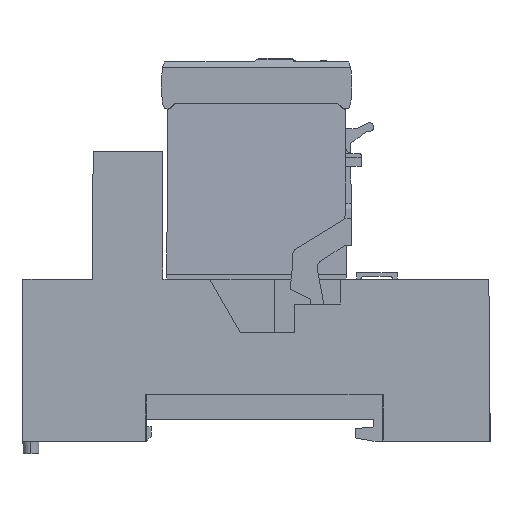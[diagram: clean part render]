
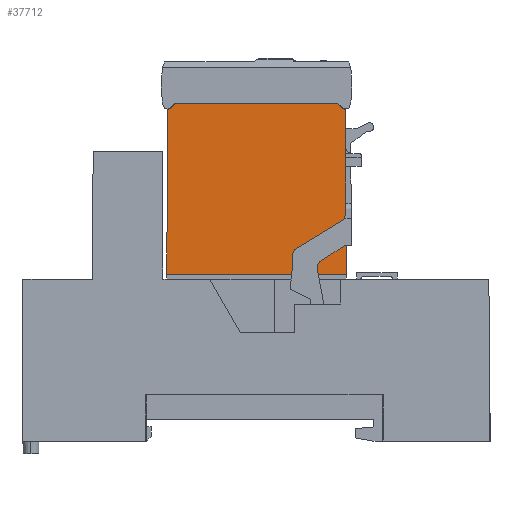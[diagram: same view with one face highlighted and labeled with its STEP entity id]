
A CAD part, left-side view. The second image highlights one B-rep face of the part: STEP entity #37712.
In plain terms, the highlighted planar face has unit normal (-1, 0, 0.006).
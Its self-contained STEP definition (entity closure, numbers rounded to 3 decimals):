
#134 = LINE ( 'NONE', #23613, #29175 ) ;
#381 = VERTEX_POINT ( 'NONE', #24866 ) ;
#690 = VECTOR ( 'NONE', #35034, 1000. ) ;
#1058 = VERTEX_POINT ( 'NONE', #36522 ) ;
#1445 = CARTESIAN_POINT ( 'NONE',  ( 2.513, 37.43, 55.2 ) ) ;
#2806 = LINE ( 'NONE', #3197, #690 ) ;
#3197 = CARTESIAN_POINT ( 'NONE',  ( 2.451, 23.131, 44.369 ) ) ;
#3736 = ORIENTED_EDGE ( 'NONE', *, *, #38393, .T. ) ;
#5075 = ORIENTED_EDGE ( 'NONE', *, *, #7281, .F. ) ;
#5267 = CARTESIAN_POINT ( 'NONE',  ( 2.519, 37.43, 56.2 ) ) ;
#5888 = DIRECTION ( 'NONE',  ( 0., -1., 0. ) ) ;
#6144 = CARTESIAN_POINT ( 'NONE',  ( 2.513, 23.4, 55.2 ) ) ;
#6689 = VERTEX_POINT ( 'NONE', #29343 ) ;
#6866 = AXIS2_PLACEMENT_3D ( 'NONE', #18941, #7250, #18748 ) ;
#7057 = DIRECTION ( 'NONE',  ( 0., 1., 0. ) ) ;
#7250 = DIRECTION ( 'NONE',  ( 1., 0., -0.006 ) ) ;
#7281 = EDGE_CURVE ( 'NONE', #7834, #6689, #22595, .T. ) ;
#7341 = EDGE_CURVE ( 'NONE', #27032, #36767, #27658, .T. ) ;
#7466 = CARTESIAN_POINT ( 'NONE',  ( 2.513, 51.667, 55.2 ) ) ;
#7638 = DIRECTION ( 'NONE',  ( 0., 1., -0.005 ) ) ;
#7752 = CARTESIAN_POINT ( 'NONE',  ( 2.36, 51.82, 28.8 ) ) ;
#7834 = VERTEX_POINT ( 'NONE', #30298 ) ;
#7954 = CARTESIAN_POINT ( 'NONE',  ( 2.36, 23.041, 28.8 ) ) ;
#8137 = EDGE_CURVE ( 'NONE', #14712, #34345, #134, .T. ) ;
#8540 = DIRECTION ( 'NONE',  ( 0., -1., 0. ) ) ;
#9083 = ORIENTED_EDGE ( 'NONE', *, *, #33252, .F. ) ;
#9360 = ORIENTED_EDGE ( 'NONE', *, *, #8137, .T. ) ;
#9757 = ORIENTED_EDGE ( 'NONE', *, *, #7341, .T. ) ;
#9789 = CARTESIAN_POINT ( 'NONE',  ( 2.451, 51.73, 44.369 ) ) ;
#10970 = CARTESIAN_POINT ( 'NONE',  ( 2.513, 51.461, 55.2 ) ) ;
#11356 = CARTESIAN_POINT ( 'NONE',  ( 2.451, 23.289, 44.355 ) ) ;
#11713 = CARTESIAN_POINT ( 'NONE',  ( 2.513, 23., 55.2 ) ) ;
#11938 = DIRECTION ( 'NONE',  ( 0., -1., 0. ) ) ;
#12000 = EDGE_CURVE ( 'NONE', #36678, #22832, #19915, .T. ) ;
#12563 = EDGE_CURVE ( 'NONE', #7834, #22457, #21743, .T. ) ;
#12692 = LINE ( 'NONE', #9789, #21456 ) ;
#12976 = VERTEX_POINT ( 'NONE', #16115 ) ;
#13102 = VECTOR ( 'NONE', #14718, 1000. ) ;
#13958 = EDGE_CURVE ( 'NONE', #36767, #14712, #12692, .T. ) ;
#14368 = EDGE_CURVE ( 'NONE', #6689, #1058, #31809, .T. ) ;
#14441 = CARTESIAN_POINT ( 'NONE',  ( 2.513, 23.194, 55.2 ) ) ;
#14712 = VERTEX_POINT ( 'NONE', #7752 ) ;
#14718 = DIRECTION ( 'NONE',  ( -0.004, 0.707, -0.707 ) ) ;
#16115 = CARTESIAN_POINT ( 'NONE',  ( 2.519, 50.461, 56.2 ) ) ;
#16220 = EDGE_LOOP ( 'NONE', ( #5075, #17350, #9083, #29988, #16566, #3736, #9757, #21785, #9360, #25400, #26791, #35413 ) ) ;
#16566 = ORIENTED_EDGE ( 'NONE', *, *, #26041, .F. ) ;
#16592 = DIRECTION ( 'NONE',  ( 0.004, 0.707, 0.707 ) ) ;
#17350 = ORIENTED_EDGE ( 'NONE', *, *, #12563, .T. ) ;
#17651 = LINE ( 'NONE', #29520, #26133 ) ;
#18748 = DIRECTION ( 'NONE',  ( -0.006, 0., -1. ) ) ;
#18941 = CARTESIAN_POINT ( 'NONE',  ( 2.45, 37.43, 44.286 ) ) ;
#19915 = LINE ( 'NONE', #23190, #22499 ) ;
#20433 = CARTESIAN_POINT ( 'NONE',  ( 2.519, 24.4, 56.2 ) ) ;
#21167 = DIRECTION ( 'NONE',  ( 0., -1., 0.005 ) ) ;
#21456 = VECTOR ( 'NONE', #21666, 1000. ) ;
#21666 = DIRECTION ( 'NONE',  ( -0.006, 0.006, -1. ) ) ;
#21743 = LINE ( 'NONE', #36294, #36142 ) ;
#21785 = ORIENTED_EDGE ( 'NONE', *, *, #13958, .T. ) ;
#22457 = VERTEX_POINT ( 'NONE', #14441 ) ;
#22499 = VECTOR ( 'NONE', #16592, 1000. ) ;
#22595 = LINE ( 'NONE', #31372, #35910 ) ;
#22832 = VERTEX_POINT ( 'NONE', #20433 ) ;
#23190 = CARTESIAN_POINT ( 'NONE',  ( 2.514, 23.494, 55.295 ) ) ;
#23613 = CARTESIAN_POINT ( 'NONE',  ( 2.36, 23.026, 28.8 ) ) ;
#24250 = DIRECTION ( 'NONE',  ( 0.006, 0.006, 1. ) ) ;
#24866 = CARTESIAN_POINT ( 'NONE',  ( 2.388, 23.068, 33.58 ) ) ;
#25400 = ORIENTED_EDGE ( 'NONE', *, *, #36823, .T. ) ;
#25959 = DIRECTION ( 'NONE',  ( -0.006, -0.005, -1. ) ) ;
#26041 = EDGE_CURVE ( 'NONE', #12976, #22832, #28571, .T. ) ;
#26133 = VECTOR ( 'NONE', #21167, 1000. ) ;
#26577 = LINE ( 'NONE', #30484, #13102 ) ;
#26791 = ORIENTED_EDGE ( 'NONE', *, *, #37342, .F. ) ;
#27032 = VERTEX_POINT ( 'NONE', #10970 ) ;
#27658 = LINE ( 'NONE', #1445, #37164 ) ;
#28571 = LINE ( 'NONE', #5267, #36574 ) ;
#29175 = VECTOR ( 'NONE', #11938, 1000. ) ;
#29343 = CARTESIAN_POINT ( 'NONE',  ( 2.414, 23.258, 38.066 ) ) ;
#29520 = CARTESIAN_POINT ( 'NONE',  ( 2.388, 37.378, 33.51 ) ) ;
#29538 = VECTOR ( 'NONE', #25959, 1000. ) ;
#29988 = ORIENTED_EDGE ( 'NONE', *, *, #12000, .T. ) ;
#30298 = CARTESIAN_POINT ( 'NONE',  ( 2.414, 23.094, 38.067 ) ) ;
#30484 = CARTESIAN_POINT ( 'NONE',  ( 2.519, 50.461, 56.2 ) ) ;
#31372 = CARTESIAN_POINT ( 'NONE',  ( 2.414, 37.4, 37.997 ) ) ;
#31809 = LINE ( 'NONE', #11356, #29538 ) ;
#32752 = FACE_OUTER_BOUND ( 'NONE', #16220, .T. ) ;
#33252 = EDGE_CURVE ( 'NONE', #36678, #22457, #38322, .T. ) ;
#34345 = VERTEX_POINT ( 'NONE', #7954 ) ;
#35034 = DIRECTION ( 'NONE',  ( 0.006, 0.006, 1. ) ) ;
#35413 = ORIENTED_EDGE ( 'NONE', *, *, #14368, .F. ) ;
#35831 = PLANE ( 'NONE',  #6866 ) ;
#35910 = VECTOR ( 'NONE', #7638, 1000. ) ;
#36142 = VECTOR ( 'NONE', #24250, 1000. ) ;
#36294 = CARTESIAN_POINT ( 'NONE',  ( 2.451, 23.131, 44.369 ) ) ;
#36522 = CARTESIAN_POINT ( 'NONE',  ( 2.388, 23.236, 33.579 ) ) ;
#36574 = VECTOR ( 'NONE', #8540, 1000. ) ;
#36678 = VERTEX_POINT ( 'NONE', #6144 ) ;
#36767 = VERTEX_POINT ( 'NONE', #7466 ) ;
#36823 = EDGE_CURVE ( 'NONE', #34345, #381, #2806, .T. ) ;
#37164 = VECTOR ( 'NONE', #7057, 1000. ) ;
#37342 = EDGE_CURVE ( 'NONE', #1058, #381, #17651, .T. ) ;
#37645 = VECTOR ( 'NONE', #5888, 1000. ) ;
#37712 = ADVANCED_FACE ( 'NONE', ( #32752 ), #35831, .F. ) ;
#38322 = LINE ( 'NONE', #11713, #37645 ) ;
#38393 = EDGE_CURVE ( 'NONE', #12976, #27032, #26577, .T. ) ;
